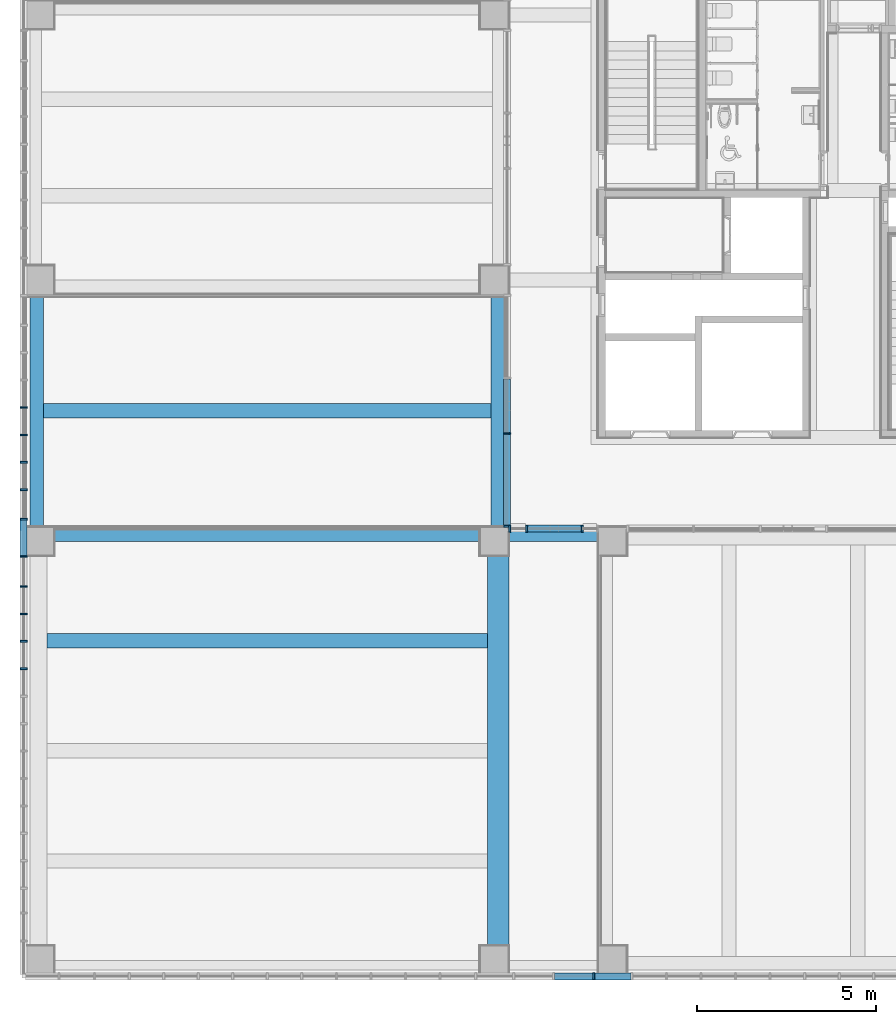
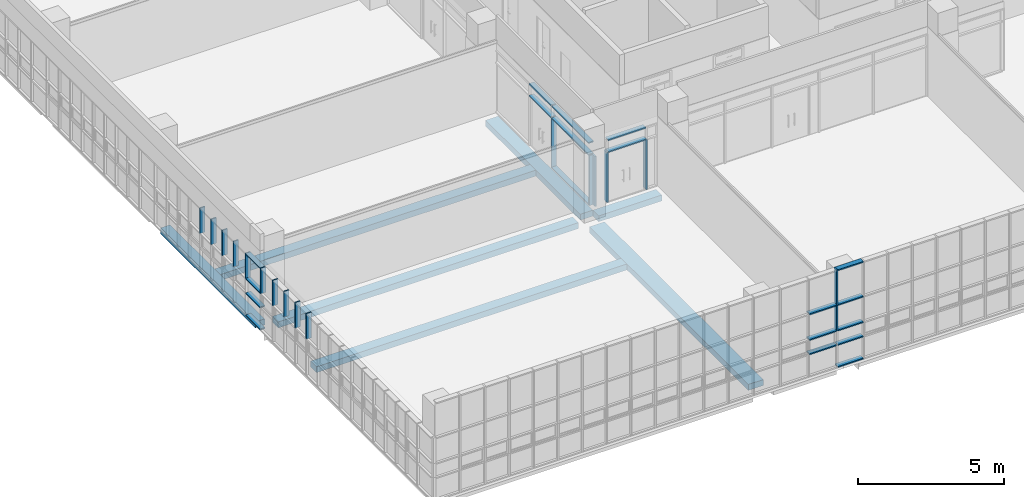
# One storey, part 3 of 76: 36 members, 7 beams, 4 elements without a shape of their own.
"""IFC2X3 building model written with IfcOpenShell, lengths in millimetres."""

from ifc_helpers import new_model, entity, si_unit, converted_unit, derived_unit, direction, frame, frame_2d, origin, origin_2d_with_axis, place, context, subcontext, project, spatial, rectangle, extrude, source, transform, mapped, material, type_object, type_shapes, element, aggregate, save


model = new_model("IFC2X3")

# Units and contexts
model_context = context("Model", 3, precision=0.01, world=origin(), true_north=direction((6.123031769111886e-17, 1.0)))
body_context = subcontext(model_context, "Body", "Model", "MODEL_VIEW")
ifc_project = project(units=[si_unit("LENGTHUNIT", "METRE", prefix="MILLI"), si_unit("AREAUNIT", "SQUARE_METRE"), si_unit("VOLUMEUNIT", "CUBIC_METRE"), converted_unit("PLANEANGLEUNIT", "DEGREE", entity("IfcRatioMeasure", 0.017453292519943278), si_unit("PLANEANGLEUNIT", "RADIAN"), dimensions=[0, 0, 0, 0, 0, 0, 0]), si_unit("MASSUNIT", "GRAM", prefix="KILO"), derived_unit("MASSDENSITYUNIT", [(si_unit("MASSUNIT", "GRAM", prefix="KILO"), 1), (si_unit("LENGTHUNIT", "METRE"), -3)]), derived_unit("MOMENTOFINERTIAUNIT", [(si_unit("LENGTHUNIT", "METRE"), 4)]), si_unit("TIMEUNIT", "SECOND"), si_unit("FREQUENCYUNIT", "HERTZ"), si_unit("THERMODYNAMICTEMPERATUREUNIT", "DEGREE_CELSIUS"), derived_unit("THERMALTRANSMITTANCEUNIT", [(si_unit("MASSUNIT", "GRAM", prefix="KILO"), 1), (si_unit("THERMODYNAMICTEMPERATUREUNIT", "KELVIN"), -1), (si_unit("TIMEUNIT", "SECOND"), -3)]), derived_unit("VOLUMETRICFLOWRATEUNIT", [(si_unit("LENGTHUNIT", "METRE"), 3), (si_unit("TIMEUNIT", "SECOND"), -1)]), derived_unit("MASSFLOWRATEUNIT", [(si_unit("MASSUNIT", "GRAM", prefix="KILO"), 1), (si_unit("TIMEUNIT", "SECOND"), -1)]), derived_unit("ROTATIONALFREQUENCYUNIT", [(si_unit("TIMEUNIT", "SECOND"), -1)]), si_unit("ELECTRICCURRENTUNIT", "AMPERE"), si_unit("ELECTRICVOLTAGEUNIT", "VOLT"), si_unit("POWERUNIT", "WATT"), si_unit("FORCEUNIT", "NEWTON", prefix="KILO"), si_unit("ILLUMINANCEUNIT", "LUX"), si_unit("LUMINOUSFLUXUNIT", "LUMEN"), si_unit("LUMINOUSINTENSITYUNIT", "CANDELA"), derived_unit("USERDEFINED", [(si_unit("MASSUNIT", "GRAM", prefix="KILO"), -1), (si_unit("LENGTHUNIT", "METRE"), -2), (si_unit("TIMEUNIT", "SECOND"), 3), (si_unit("LUMINOUSFLUXUNIT", "LUMEN"), 1)]), derived_unit("SOUNDPOWERUNIT", [(si_unit("MASSUNIT", "GRAM", prefix="KILO"), 1), (si_unit("LENGTHUNIT", "METRE"), 2), (si_unit("TIMEUNIT", "SECOND"), -3)]), derived_unit("SOUNDPRESSUREUNIT", [(si_unit("MASSUNIT", "GRAM", prefix="KILO"), 1), (si_unit("LENGTHUNIT", "METRE"), -1), (si_unit("TIMEUNIT", "SECOND"), -2)]), derived_unit("LINEARVELOCITYUNIT", [(si_unit("LENGTHUNIT", "METRE"), 1), (si_unit("TIMEUNIT", "SECOND"), -1)]), si_unit("PRESSUREUNIT", "PASCAL"), derived_unit("USERDEFINED", [(si_unit("LENGTHUNIT", "METRE"), -2), (si_unit("MASSUNIT", "GRAM", prefix="KILO"), 1), (si_unit("TIMEUNIT", "SECOND"), -2)]), derived_unit("LINEARFORCEUNIT", [(si_unit("MASSUNIT", "GRAM", prefix="KILO"), 1), (si_unit("LENGTHUNIT", "METRE"), 1), (si_unit("TIMEUNIT", "SECOND"), -2), (si_unit("LENGTHUNIT", "METRE"), -1)]), derived_unit("PLANARFORCEUNIT", [(si_unit("MASSUNIT", "GRAM", prefix="KILO"), 1), (si_unit("LENGTHUNIT", "METRE"), 1), (si_unit("TIMEUNIT", "SECOND"), -2), (si_unit("LENGTHUNIT", "METRE"), -2)])], contexts=[model_context])

# Site, building, storey
site_placement = place(None, frame((-14167.972527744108, -657.2125860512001, 0.0)))
site = spatial("IfcSite", under=ifc_project, at=site_placement, Name="Default", CompositionType="ELEMENT")
building_placement = place(site_placement, origin())
building = spatial("IfcBuilding", under=site, at=building_placement, Name="Sample Building", CompositionType="ELEMENT")
storey_placement = place(building_placement, frame((0.0, 0.0, 9300.0)))
storey = spatial("IfcBuildingStorey", under=building, at=storey_placement, Name="지상 3층", CompositionType="ELEMENT", Elevation=9300.000000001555)

# Curtain wall, members
curtain_wall_type = type_object("IfcCurtainWallType", Name="커튼월:CW112-스테인리스 스틸 커튼월", PredefinedType="NOTDEFINED")
curtain_wall_1_placement = place(storey_placement, frame((0.0, 0.0, -9300.0)))
curtain_wall_1 = element("IfcCurtainWall", 1, at=curtain_wall_1_placement, inside=storey, type_object=curtain_wall_type, Name="커튼월:CW112-스테인리스 스틸 커튼월", ObjectType="커튼월:CW112-스테인리스 스틸 커튼월")
ifc_material_1 = material(Name="<Unnamed>")
member_type_1 = type_object("IfcMemberType", Name="직사각형 멀리언:CW200-직사각형 멀리언 50x200mm", PredefinedType="MULLION", material=ifc_material_1)
shared_shape_1 = source(origin(), body_context, "Body", "SweptSolid", [
    extrude(rectangle(XDim=200.0, YDim=50.0, at=origin_2d_with_axis()), frame((0.0, 0.0, -2100.0), z_axis=(0.0, 0.0, 1.0), x_axis=(0.0, -1.0, 0.0)), (0.0, 0.0, 1.0), 2100.0),
])
type_shapes(member_type_1, [shared_shape_1])
member_1_placement = place(curtain_wall_1_placement, frame((27522.95510516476, 15667.17762439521, 9380.0), z_axis=(0.0, 0.0, -1.0), x_axis=(0.0, -1.0, 0.0)))
member_1 = element("IfcMember", 2, at=member_1_placement, type_object=member_type_1, material=ifc_material_1, Name="직사각형 멀리언:CW200-직사각형 멀리언 50x200mm", ObjectType="직사각형 멀리언:CW200-직사각형 멀리언 50x200mm", context=body_context, shape_type="MappedRepresentation", body=[
    mapped(shared_shape_1, transform((0.0, 0.0, 0.0), scale=1.0)),
])
member_type_2 = type_object("IfcMemberType", Name="직사각형 멀리언:CW200-직사각형 멀리언 50x200mm", PredefinedType="MULLION", material=ifc_material_1)
shared_shape_2 = source(origin(), body_context, "Body", "SweptSolid", [
    extrude(rectangle(XDim=200.0, YDim=50.0, at=origin_2d_with_axis()), frame((-25.0, 0.0, -2100.0), z_axis=(0.0, 0.0, 1.0), x_axis=(0.0, -1.0, 0.0)), (0.0, 0.0, 1.0), 2100.0),
])
type_shapes(member_type_2, [shared_shape_2])
member_2_placement = place(curtain_wall_1_placement, frame((27522.955105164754, 13057.177624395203, 9380.0), z_axis=(0.0, 0.0, -1.0), x_axis=(0.0, -1.0, 0.0)))
member_2 = element("IfcMember", 3, at=member_2_placement, type_object=member_type_2, material=ifc_material_1, Name="직사각형 멀리언:CW200-직사각형 멀리언 50x200mm", ObjectType="직사각형 멀리언:CW200-직사각형 멀리언 50x200mm", context=body_context, shape_type="MappedRepresentation", body=[
    mapped(shared_shape_2, transform((0.0, 0.0, 0.0), scale=1.0)),
])
member_type_3 = type_object("IfcMemberType", Name="직사각형 멀리언:CW200-직사각형 멀리언 50x200mm", PredefinedType="MULLION", material=ifc_material_1)
shared_shape_3 = source(origin(), body_context, "Body", "SweptSolid", [
    extrude(rectangle(XDim=200.0, YDim=50.0, at=origin_2d_with_axis()), frame((-25.0, 0.0, -1500.0), z_axis=(0.0, 0.0, 1.0), x_axis=(0.0, -1.0, 0.0)), (0.0, 0.0, 1.0), 1500.0000000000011),
])
type_shapes(member_type_3, [shared_shape_3])
member_3_placement = place(curtain_wall_1_placement, frame((27522.95510516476, 15692.177624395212, 12000.0), z_axis=(0.0, -1.0, 0.0), x_axis=(0.0, 0.0, 1.0)))
member_3 = element("IfcMember", 4, at=member_3_placement, type_object=member_type_3, material=ifc_material_1, Name="직사각형 멀리언:CW200-직사각형 멀리언 50x200mm", ObjectType="직사각형 멀리언:CW200-직사각형 멀리언 50x200mm", context=body_context, shape_type="MappedRepresentation", body=[
    mapped(shared_shape_3, transform((0.0, 0.0, 0.0), scale=1.0)),
])
member_type_4 = type_object("IfcMemberType", Name="직사각형 멀리언:CW200-직사각형 멀리언 50x200mm", PredefinedType="MULLION", material=ifc_material_1)
shared_shape_4 = source(origin(), body_context, "Body", "SweptSolid", [
    extrude(rectangle(XDim=200.0, YDim=50.0, at=origin_2d_with_axis()), frame((0.0, 0.0, -1500.0), z_axis=(0.0, 0.0, 1.0), x_axis=(0.0, -1.0, 0.0)), (0.0, 0.0, 1.0), 1500.0000000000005),
])
type_shapes(member_type_4, [shared_shape_4])
member_4_placement = place(curtain_wall_1_placement, frame((27522.95510516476, 15692.177624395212, 11480.0), z_axis=(0.0, -1.0, 0.0), x_axis=(0.0, 0.0, 1.0)))
member_4 = element("IfcMember", 5, at=member_4_placement, type_object=member_type_4, material=ifc_material_1, Name="직사각형 멀리언:CW200-직사각형 멀리언 50x200mm", ObjectType="직사각형 멀리언:CW200-직사각형 멀리언 50x200mm", context=body_context, shape_type="MappedRepresentation", body=[
    mapped(shared_shape_4, transform((0.0, 0.0, 0.0), scale=1.0)),
])

curtain_wall_2_placement = place(storey_placement, frame((0.0, 0.0, -9300.0)))
curtain_wall_2 = element("IfcCurtainWall", 6, at=curtain_wall_2_placement, inside=storey, type_object=curtain_wall_type, Name="커튼월:CW112-스테인리스 스틸 커튼월", ObjectType="커튼월:CW112-스테인리스 스틸 커튼월")
member_type_5 = type_object("IfcMemberType", Name="직사각형 멀리언:CW200-직사각형 멀리언 50x200mm", PredefinedType="MULLION", material=ifc_material_1)
shared_shape_5 = source(origin(), body_context, "Body", "SweptSolid", [
    extrude(rectangle(XDim=200.0, YDim=50.0, at=origin_2d_with_axis()), frame((0.0, 0.0, -990.0), z_axis=(0.0, 0.0, 1.0), x_axis=(0.0, -1.0, 0.0)), (0.0, 0.0, 1.0), 990.0000000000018),
])
type_shapes(member_type_5, [shared_shape_5])
member_5_placement = place(curtain_wall_2_placement, frame((14018.587904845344, 12256.817707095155, 10330.0), z_axis=(0.0, -1.0, 0.0), x_axis=(0.0, 0.0, 1.0)))
member_5 = element("IfcMember", 7, at=member_5_placement, type_object=member_type_5, material=ifc_material_1, Name="직사각형 멀리언:CW200-직사각형 멀리언 50x200mm", ObjectType="직사각형 멀리언:CW200-직사각형 멀리언 50x200mm", context=body_context, shape_type="MappedRepresentation", body=[
    mapped(shared_shape_5, transform((0.0, 0.0, 0.0), scale=1.0)),
])
member_6_placement = place(curtain_wall_2_placement, frame((14018.587904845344, 12256.817707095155, 10930.0), z_axis=(0.0, -1.0, 0.0), x_axis=(0.0, 0.0, 1.0)))
member_6 = element("IfcMember", 8, at=member_6_placement, type_object=member_type_5, material=ifc_material_1, Name="직사각형 멀리언:CW200-직사각형 멀리언 50x200mm", ObjectType="직사각형 멀리언:CW200-직사각형 멀리언 50x200mm", context=body_context, shape_type="MappedRepresentation", body=[
    mapped(shared_shape_5, transform((0.0, 0.0, 0.0), scale=1.0)),
])
member_type_6 = type_object("IfcMemberType", Name="직사각형 멀리언:CW200-직사각형 멀리언 50x200mm", PredefinedType="MULLION", material=ifc_material_1)
shared_shape_6 = source(origin(), body_context, "Body", "SweptSolid", [
    extrude(rectangle(XDim=200.0, YDim=50.0, at=origin_2d_with_axis()), frame((-25.0, 0.0, -990.0), z_axis=(0.0, 0.0, 1.0), x_axis=(0.0, -1.0, 0.0)), (0.0, 0.0, 1.0), 990.0000000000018),
])
type_shapes(member_type_6, [shared_shape_6])
member_7_placement = place(curtain_wall_2_placement, frame((14018.587904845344, 12256.817707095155, 12000.0), z_axis=(0.0, -1.0, 0.0), x_axis=(0.0, 0.0, 1.0)))
member_7 = element("IfcMember", 9, at=member_7_placement, type_object=member_type_6, material=ifc_material_1, Name="직사각형 멀리언:CW200-직사각형 멀리언 50x200mm", ObjectType="직사각형 멀리언:CW200-직사각형 멀리언 50x200mm", context=body_context, shape_type="MappedRepresentation", body=[
    mapped(shared_shape_6, transform((0.0, 0.0, 0.0), scale=1.0)),
])

# Member
member_type_7 = type_object("IfcMemberType", Name="직사각형 멀리언:CW200-직사각형 멀리언 50x200mm", PredefinedType="MULLION", material=ifc_material_1)
shared_shape_7 = source(origin(), body_context, "Body", "SweptSolid", [
    extrude(rectangle(XDim=200.0, YDim=50.0, at=origin_2d_with_axis()), frame((-25.0, 0.0, -2534.965316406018), z_axis=(0.0, 0.0, 1.0), x_axis=(0.0, -1.0, 0.0)), (0.0, 0.0, 1.0), 2534.965316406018),
])
type_shapes(member_type_7, [shared_shape_7])
member_8_placement = place(curtain_wall_1_placement, frame((27522.955105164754, 13107.1776243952, 12000.0), z_axis=(0.0, -1.0, 0.0), x_axis=(0.0, 0.0, 1.0)))
member_8 = element("IfcMember", 10, at=member_8_placement, type_object=member_type_7, material=ifc_material_1, Name="직사각형 멀리언:CW200-직사각형 멀리언 50x200mm", ObjectType="직사각형 멀리언:CW200-직사각형 멀리언 50x200mm", context=body_context, shape_type="MappedRepresentation", body=[
    mapped(shared_shape_7, transform((0.0, 0.0, 0.0), scale=1.0)),
])

member_type_8 = type_object("IfcMemberType", Name="직사각형 멀리언:CW200-직사각형 멀리언 50x200mm", PredefinedType="MULLION", material=ifc_material_1)
shared_shape_8 = source(origin(), body_context, "Body", "SweptSolid", [
    extrude(rectangle(XDim=200.0, YDim=50.0, at=origin_2d_with_axis()), frame((-25.0, 0.0, -2534.965316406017), z_axis=(0.0, 0.0, 1.0), x_axis=(0.0, -1.0, 0.0)), (0.0, 0.0, 1.0), 2534.965316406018),
])
type_shapes(member_type_8, [shared_shape_8])
member_9_placement = place(curtain_wall_1_placement, frame((27522.95510516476, 15642.17762439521, 9380.0), z_axis=(0.0, 1.0, 0.0), x_axis=(0.0, 0.0, -1.0)))
member_9 = element("IfcMember", 11, at=member_9_placement, type_object=member_type_8, material=ifc_material_1, Name="직사각형 멀리언:CW200-직사각형 멀리언 50x200mm", ObjectType="직사각형 멀리언:CW200-직사각형 멀리언 50x200mm", context=body_context, shape_type="MappedRepresentation", body=[
    mapped(shared_shape_8, transform((0.0, 0.0, 0.0), scale=1.0)),
])

member_type_9 = type_object("IfcMemberType", Name="직사각형 멀리언:CW200-직사각형 멀리언 50x200mm", PredefinedType="MULLION", material=ifc_material_1)
shared_shape_9 = source(origin(), body_context, "Body", "SweptSolid", [
    extrude(rectangle(XDim=200.0, YDim=50.0, at=origin_2d_with_axis()), frame((0.0, 0.0, -2534.9653164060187), z_axis=(0.0, 0.0, 1.0), x_axis=(0.0, -1.0, 0.0)), (0.0, 0.0, 1.0), 2534.9653164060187),
])
type_shapes(member_type_9, [shared_shape_9])
member_10_placement = place(curtain_wall_1_placement, frame((27522.955105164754, 13107.1776243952, 11480.0), z_axis=(0.0, -1.0, 0.0), x_axis=(0.0, 0.0, 1.0)))
member_10 = element("IfcMember", 12, at=member_10_placement, type_object=member_type_9, material=ifc_material_1, Name="직사각형 멀리언:CW200-직사각형 멀리언 50x200mm", ObjectType="직사각형 멀리언:CW200-직사각형 멀리언 50x200mm", context=body_context, shape_type="MappedRepresentation", body=[
    mapped(shared_shape_9, transform((0.0, 0.0, 0.0), scale=1.0)),
])

aggregate(curtain_wall_1, [member_8, member_2, member_3, member_9, member_1, member_4, member_10])

# Curtain wall, members
curtain_wall_3_placement = place(storey_placement, frame((0.0, 0.0, -9300.0)))
curtain_wall_3 = element("IfcCurtainWall", 13, at=curtain_wall_3_placement, inside=storey, type_object=curtain_wall_type, Name="커튼월:CW112-스테인리스 스틸 커튼월", ObjectType="커튼월:CW112-스테인리스 스틸 커튼월")
member_type_10 = type_object("IfcMemberType", Name="직사각형 멀리언:CW200-직사각형 멀리언 50x200mm", PredefinedType="MULLION", material=ifc_material_1)
shared_shape_10 = source(origin(), body_context, "Body", "SweptSolid", [
    extrude(rectangle(XDim=200.0, YDim=50.0, at=origin_2d_with_axis()), frame((0.0, 0.0, -1500.0), z_axis=(0.0, 0.0, 1.0), x_axis=(0.0, -1.0, 0.0)), (0.0, 0.0, 1.0), 1499.999999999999),
])
type_shapes(member_type_10, [shared_shape_10])
member_11_placement = place(curtain_wall_3_placement, frame((28091.1258144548, 13012.212307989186, 11480.0), z_axis=(-1.0, 0.0, 0.0), x_axis=(0.0, 0.0, 1.0)))
member_11 = element("IfcMember", 14, at=member_11_placement, type_object=member_type_10, material=ifc_material_1, Name="직사각형 멀리언:CW200-직사각형 멀리언 50x200mm", ObjectType="직사각형 멀리언:CW200-직사각형 멀리언 50x200mm", context=body_context, shape_type="MappedRepresentation", body=[
    mapped(shared_shape_10, transform((0.0, 0.0, 0.0), scale=1.0)),
])
member_type_11 = type_object("IfcMemberType", Name="직사각형 멀리언:CW200-직사각형 멀리언 50x200mm", PredefinedType="MULLION", material=ifc_material_1)
shared_shape_11 = source(origin(), body_context, "Body", "SweptSolid", [
    extrude(rectangle(XDim=200.0, YDim=50.0, at=origin_2d_with_axis()), frame((-25.0, 0.0, -1500.0), z_axis=(0.0, 0.0, 1.0), x_axis=(0.0, -1.0, 0.0)), (0.0, 0.0, 1.0), 1499.999999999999),
])
type_shapes(member_type_11, [shared_shape_11])
member_12_placement = place(curtain_wall_3_placement, frame((28091.1258144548, 13012.212307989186, 12000.0), z_axis=(-1.0, 0.0, 0.0), x_axis=(0.0, 0.0, 1.0)))
member_12 = element("IfcMember", 15, at=member_12_placement, type_object=member_type_11, material=ifc_material_1, Name="직사각형 멀리언:CW200-직사각형 멀리언 50x200mm", ObjectType="직사각형 멀리언:CW200-직사각형 멀리언 50x200mm", context=body_context, shape_type="MappedRepresentation", body=[
    mapped(shared_shape_11, transform((0.0, 0.0, 0.0), scale=1.0)),
])
member_type_12 = type_object("IfcMemberType", Name="직사각형 멀리언:CW200-직사각형 멀리언 50x200mm", PredefinedType="MULLION", material=ifc_material_1)
shared_shape_12 = source(origin(), body_context, "Body", "SweptSolid", [
    extrude(rectangle(XDim=200.0, YDim=50.0, at=origin_2d_with_axis()), frame((-25.0, 0.0, -2100.0), z_axis=(0.0, 0.0, 1.0), x_axis=(0.0, -1.0, 0.0)), (0.0, 0.0, 1.0), 2100.0),
])
type_shapes(member_type_12, [shared_shape_12])
member_13_placement = place(curtain_wall_3_placement, frame((27567.98031454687, 13012.212307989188, 9380.0), z_axis=(0.0, 0.0, -1.0), x_axis=(-1.0, 0.0, 0.0)))
member_13 = element("IfcMember", 16, at=member_13_placement, type_object=member_type_12, material=ifc_material_1, Name="직사각형 멀리언:CW200-직사각형 멀리언 50x200mm", ObjectType="직사각형 멀리언:CW200-직사각형 멀리언 50x200mm", context=body_context, shape_type="MappedRepresentation", body=[
    mapped(shared_shape_12, transform((0.0, 0.0, 0.0), scale=1.0)),
])
member_type_13 = type_object("IfcMemberType", Name="직사각형 멀리언:CW200-직사각형 멀리언 50x200mm", PredefinedType="MULLION", material=ifc_material_1)
shared_shape_13 = source(origin(), body_context, "Body", "SweptSolid", [
    extrude(rectangle(XDim=200.0, YDim=50.0, at=origin_2d_with_axis()), frame((0.0, 0.0, -2100.0), z_axis=(0.0, 0.0, 1.0), x_axis=(0.0, -1.0, 0.0)), (0.0, 0.0, 1.0), 2100.0),
])
type_shapes(member_type_13, [shared_shape_13])
member_14_placement = place(curtain_wall_3_placement, frame((29616.1258144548, 13012.212307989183, 9380.0), z_axis=(0.0, 0.0, -1.0), x_axis=(-1.0, 0.0, 0.0)))
member_14 = element("IfcMember", 17, at=member_14_placement, type_object=member_type_13, material=ifc_material_1, Name="직사각형 멀리언:CW200-직사각형 멀리언 50x200mm", ObjectType="직사각형 멀리언:CW200-직사각형 멀리언 50x200mm", context=body_context, shape_type="MappedRepresentation", body=[
    mapped(shared_shape_13, transform((0.0, 0.0, 0.0), scale=1.0)),
])
member_15_placement = place(curtain_wall_3_placement, frame((28066.1258144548, 13012.212307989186, 9380.0), z_axis=(0.0, 0.0, -1.0), x_axis=(-1.0, 0.0, 0.0)))
member_15 = element("IfcMember", 18, at=member_15_placement, type_object=member_type_13, material=ifc_material_1, Name="직사각형 멀리언:CW200-직사각형 멀리언 50x200mm", ObjectType="직사각형 멀리언:CW200-직사각형 멀리언 50x200mm", context=body_context, shape_type="MappedRepresentation", body=[
    mapped(shared_shape_13, transform((0.0, 0.0, 0.0), scale=1.0)),
])
aggregate(curtain_wall_3, [member_13, member_11, member_14, member_12, member_15])

# Member
member_type_14 = type_object("IfcMemberType", Name="직사각형 멀리언:CW200-직사각형 멀리언 50x200mm", PredefinedType="MULLION", material=ifc_material_1)
shared_shape_14 = source(origin(), body_context, "Body", "SweptSolid", [
    extrude(rectangle(XDim=200.0, YDim=50.0, at=origin_2d_with_axis()), frame((0.0, 0.0, -1070.0), z_axis=(0.0, 0.0, 1.0), x_axis=(0.0, -1.0, 0.0)), (0.0, 0.0, 1.0), 1070.000000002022),
])
type_shapes(member_type_14, [shared_shape_14])
member_16_placement = place(curtain_wall_2_placement, frame((14018.58790484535, 15629.81770709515, 10930.0), z_axis=(0.0, 0.0, -1.0), x_axis=(0.0, -1.0, 0.0)))
member_16 = element("IfcMember", 19, at=member_16_placement, type_object=member_type_14, material=ifc_material_1, Name="직사각형 멀리언:CW200-직사각형 멀리언 50x200mm", ObjectType="직사각형 멀리언:CW200-직사각형 멀리언 50x200mm", context=body_context, shape_type="MappedRepresentation", body=[
    mapped(shared_shape_14, transform((0.0, 0.0, 0.0), scale=1.0)),
])

member_17_placement = place(curtain_wall_2_placement, frame((14018.587904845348, 14863.817707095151, 10930.0), z_axis=(0.0, 0.0, -1.0), x_axis=(0.0, -1.0, 0.0)))
member_17 = element("IfcMember", 20, at=member_17_placement, type_object=member_type_14, material=ifc_material_1, Name="직사각형 멀리언:CW200-직사각형 멀리언 50x200mm", ObjectType="직사각형 멀리언:CW200-직사각형 멀리언 50x200mm", context=body_context, shape_type="MappedRepresentation", body=[
    mapped(shared_shape_14, transform((0.0, 0.0, 0.0), scale=1.0)),
])

member_18_placement = place(curtain_wall_2_placement, frame((14018.587904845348, 14097.817707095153, 10930.0), z_axis=(0.0, 0.0, -1.0), x_axis=(0.0, -1.0, 0.0)))
member_18 = element("IfcMember", 21, at=member_18_placement, type_object=member_type_14, material=ifc_material_1, Name="직사각형 멀리언:CW200-직사각형 멀리언 50x200mm", ObjectType="직사각형 멀리언:CW200-직사각형 멀리언 50x200mm", context=body_context, shape_type="MappedRepresentation", body=[
    mapped(shared_shape_14, transform((0.0, 0.0, 0.0), scale=1.0)),
])

member_19_placement = place(curtain_wall_2_placement, frame((14018.587904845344, 12231.817707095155, 10930.0), z_axis=(0.0, 0.0, -1.0), x_axis=(0.0, -1.0, 0.0)))
member_19 = element("IfcMember", 22, at=member_19_placement, type_object=member_type_14, material=ifc_material_1, Name="직사각형 멀리언:CW200-직사각형 멀리언 50x200mm", ObjectType="직사각형 멀리언:CW200-직사각형 멀리언 50x200mm", context=body_context, shape_type="MappedRepresentation", body=[
    mapped(shared_shape_14, transform((0.0, 0.0, 0.0), scale=1.0)),
])

member_20_placement = place(curtain_wall_2_placement, frame((14018.587904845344, 11395.81770709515, 10930.0), z_axis=(0.0, 0.0, -1.0), x_axis=(0.0, -1.0, 0.0)))
member_20 = element("IfcMember", 23, at=member_20_placement, type_object=member_type_14, material=ifc_material_1, Name="직사각형 멀리언:CW200-직사각형 멀리언 50x200mm", ObjectType="직사각형 멀리언:CW200-직사각형 멀리언 50x200mm", context=body_context, shape_type="MappedRepresentation", body=[
    mapped(shared_shape_14, transform((0.0, 0.0, 0.0), scale=1.0)),
])

member_21_placement = place(curtain_wall_2_placement, frame((14018.587904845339, 9097.817707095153, 10930.0), z_axis=(0.0, 0.0, -1.0), x_axis=(0.0, -1.0, 0.0)))
member_21 = element("IfcMember", 24, at=member_21_placement, type_object=member_type_14, material=ifc_material_1, Name="직사각형 멀리언:CW200-직사각형 멀리언 50x200mm", ObjectType="직사각형 멀리언:CW200-직사각형 멀리언 50x200mm", context=body_context, shape_type="MappedRepresentation", body=[
    mapped(shared_shape_14, transform((0.0, 0.0, 0.0), scale=1.0)),
])

member_22_placement = place(curtain_wall_2_placement, frame((14018.587904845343, 9863.817707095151, 10930.0), z_axis=(0.0, 0.0, -1.0), x_axis=(0.0, -1.0, 0.0)))
member_22 = element("IfcMember", 25, at=member_22_placement, type_object=member_type_14, material=ifc_material_1, Name="직사각형 멀리언:CW200-직사각형 멀리언 50x200mm", ObjectType="직사각형 멀리언:CW200-직사각형 멀리언 50x200mm", context=body_context, shape_type="MappedRepresentation", body=[
    mapped(shared_shape_14, transform((0.0, 0.0, 0.0), scale=1.0)),
])

member_23_placement = place(curtain_wall_2_placement, frame((14018.587904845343, 10629.817707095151, 10930.0), z_axis=(0.0, 0.0, -1.0), x_axis=(0.0, -1.0, 0.0)))
member_23 = element("IfcMember", 26, at=member_23_placement, type_object=member_type_14, material=ifc_material_1, Name="직사각형 멀리언:CW200-직사각형 멀리언 50x200mm", ObjectType="직사각형 멀리언:CW200-직사각형 멀리언 50x200mm", context=body_context, shape_type="MappedRepresentation", body=[
    mapped(shared_shape_14, transform((0.0, 0.0, 0.0), scale=1.0)),
])

member_24_placement = place(curtain_wall_2_placement, frame((14018.58790484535, 16395.81770709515, 10930.0), z_axis=(0.0, 0.0, -1.0), x_axis=(0.0, -1.0, 0.0)))
member_24 = element("IfcMember", 27, at=member_24_placement, type_object=member_type_14, material=ifc_material_1, Name="직사각형 멀리언:CW200-직사각형 멀리언 50x200mm", ObjectType="직사각형 멀리언:CW200-직사각형 멀리언 50x200mm", context=body_context, shape_type="MappedRepresentation", body=[
    mapped(shared_shape_14, transform((0.0, 0.0, 0.0), scale=1.0)),
])

member_25_placement = place(curtain_wall_2_placement, frame((14018.587904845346, 13271.817707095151, 10930.0), z_axis=(0.0, 0.0, -1.0), x_axis=(0.0, -1.0, 0.0)))
member_25 = element("IfcMember", 28, at=member_25_placement, type_object=member_type_14, material=ifc_material_1, Name="직사각형 멀리언:CW200-직사각형 멀리언 50x200mm", ObjectType="직사각형 멀리언:CW200-직사각형 멀리언 50x200mm", context=body_context, shape_type="MappedRepresentation", body=[
    mapped(shared_shape_14, transform((0.0, 0.0, 0.0), scale=1.0)),
])

member_type_15 = type_object("IfcMemberType", Name="직사각형 멀리언:CW200-직사각형 멀리언 50x200mm", PredefinedType="MULLION", material=ifc_material_1)
shared_shape_15 = source(origin(), body_context, "Body", "SweptSolid", [
    extrude(rectangle(XDim=200.0, YDim=50.0, at=origin_2d_with_axis()), frame((-25.0, 0.0, -990.0), z_axis=(0.0, 0.0, 1.0), x_axis=(0.0, -1.0, 0.0)), (0.0, 0.0, 1.0), 989.999999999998),
])
type_shapes(member_type_15, [shared_shape_15])
member_26_placement = place(curtain_wall_2_placement, frame((14018.587904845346, 13246.817707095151, 9380.0), z_axis=(0.0, 1.0, 0.0), x_axis=(0.0, 0.0, -1.0)))
member_26 = element("IfcMember", 29, at=member_26_placement, type_object=member_type_15, material=ifc_material_1, Name="직사각형 멀리언:CW200-직사각형 멀리언 50x200mm", ObjectType="직사각형 멀리언:CW200-직사각형 멀리언 50x200mm", context=body_context, shape_type="MappedRepresentation", body=[
    mapped(shared_shape_15, transform((0.0, 0.0, 0.0), scale=1.0)),
])

aggregate(curtain_wall_2, [member_16, member_17, member_7, member_18, member_19, member_20, member_21, member_22, member_23, member_24, member_26, member_5, member_6, member_25])

# Curtain wall, members
curtain_wall_4_placement = place(storey_placement, frame((0.0, 0.0, -9300.0)))
curtain_wall_4 = element("IfcCurtainWall", 30, at=curtain_wall_4_placement, inside=storey, type_object=curtain_wall_type, Name="커튼월:CW112-스테인리스 스틸 커튼월", ObjectType="커튼월:CW112-스테인리스 스틸 커튼월")
member_type_16 = type_object("IfcMemberType", Name="직사각형 멀리언:CW200-직사각형 멀리언 50x200mm", PredefinedType="MULLION", material=ifc_material_1)
shared_shape_16 = source(origin(), body_context, "Body", "SweptSolid", [
    extrude(rectangle(XDim=200.0, YDim=50.0, at=origin_2d_with_axis()), frame((0.0, 0.0, -1070.0), z_axis=(0.0, 0.0, 1.0), x_axis=(0.0, -1.0, 0.0)), (0.0, 0.0, 1.0), 1070.000000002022),
])
type_shapes(member_type_16, [shared_shape_16])
member_27_placement = place(curtain_wall_4_placement, frame((29945.156070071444, 507.2122951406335, 10930.0), z_axis=(0.0, 0.0, -1.0), x_axis=(1.0, 0.0, 0.0)))
member_27 = element("IfcMember", 31, at=member_27_placement, type_object=member_type_16, material=ifc_material_1, Name="직사각형 멀리언:CW200-직사각형 멀리언 50x200mm", ObjectType="직사각형 멀리언:CW200-직사각형 멀리언 50x200mm", context=body_context, shape_type="MappedRepresentation", body=[
    mapped(shared_shape_16, transform((0.0, 0.0, 0.0), scale=1.0)),
])
member_type_17 = type_object("IfcMemberType", Name="직사각형 멀리언:CW200-직사각형 멀리언 50x200mm", PredefinedType="MULLION", material=ifc_material_1)
shared_shape_17 = source(origin(), body_context, "Body", "SweptSolid", [
    extrude(rectangle(XDim=200.0, YDim=50.0, at=origin_2d_with_axis()), frame((0.0, 0.0, -1480.0), z_axis=(0.0, 0.0, 1.0), x_axis=(0.0, -1.0, 0.0)), (0.0, 0.0, 1.0), 1479.9999999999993),
])
type_shapes(member_type_17, [shared_shape_17])
member_28_placement = place(curtain_wall_4_placement, frame((29945.156070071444, 507.2122951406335, 12000.0), z_axis=(0.0, 0.0, -1.0), x_axis=(1.0, 0.0, 0.0)))
member_28 = element("IfcMember", 32, at=member_28_placement, type_object=member_type_17, material=ifc_material_1, Name="직사각형 멀리언:CW200-직사각형 멀리언 50x200mm", ObjectType="직사각형 멀리언:CW200-직사각형 멀리언 50x200mm", context=body_context, shape_type="MappedRepresentation", body=[
    mapped(shared_shape_17, transform((0.0, 0.0, 0.0), scale=1.0)),
])
member_type_18 = type_object("IfcMemberType", Name="직사각형 멀리언:CW200-직사각형 멀리언 50x200mm", PredefinedType="MULLION", material=ifc_material_1)
shared_shape_18 = source(origin(), body_context, "Body", "SweptSolid", [
    extrude(rectangle(XDim=200.0, YDim=50.0, at=origin_2d_with_axis()), frame((-25.0, 0.0, -1010.0), z_axis=(0.0, 0.0, 1.0), x_axis=(0.0, -1.0, 0.0)), (0.0, 0.0, 1.0), 1009.9999999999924),
])
type_shapes(member_type_18, [shared_shape_18])
member_29_placement = place(curtain_wall_4_placement, frame((29970.156070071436, 507.21229514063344, 9380.0), z_axis=(-1.0, 0.0, 0.0), x_axis=(0.0, 0.0, -1.0)))
member_29 = element("IfcMember", 33, at=member_29_placement, type_object=member_type_18, material=ifc_material_1, Name="직사각형 멀리언:CW200-직사각형 멀리언 50x200mm", ObjectType="직사각형 멀리언:CW200-직사각형 멀리언 50x200mm", context=body_context, shape_type="MappedRepresentation", body=[
    mapped(shared_shape_18, transform((0.0, 0.0, 0.0), scale=1.0)),
])
member_type_19 = type_object("IfcMemberType", Name="직사각형 멀리언:CW200-직사각형 멀리언 50x200mm", PredefinedType="MULLION", material=ifc_material_1)
shared_shape_19 = source(origin(), body_context, "Body", "SweptSolid", [
    extrude(rectangle(XDim=200.0, YDim=50.0, at=origin_2d_with_axis()), frame((0.0, 0.0, -1010.0), z_axis=(0.0, 0.0, 1.0), x_axis=(0.0, -1.0, 0.0)), (0.0, 0.0, 1.0), 1009.9999999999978),
])
type_shapes(member_type_19, [shared_shape_19])
member_30_placement = place(curtain_wall_4_placement, frame((30980.15607007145, 507.21229514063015, 10330.0), z_axis=(1.0, 0.0, 0.0), x_axis=(0.0, 0.0, 1.0)))
member_30 = element("IfcMember", 34, at=member_30_placement, type_object=member_type_19, material=ifc_material_1, Name="직사각형 멀리언:CW200-직사각형 멀리언 50x200mm", ObjectType="직사각형 멀리언:CW200-직사각형 멀리언 50x200mm", context=body_context, shape_type="MappedRepresentation", body=[
    mapped(shared_shape_19, transform((0.0, 0.0, 0.0), scale=1.0)),
])
member_31_placement = place(curtain_wall_4_placement, frame((30980.15607007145, 507.21229514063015, 10930.0), z_axis=(1.0, 0.0, 0.0), x_axis=(0.0, 0.0, 1.0)))
member_31 = element("IfcMember", 35, at=member_31_placement, type_object=member_type_19, material=ifc_material_1, Name="직사각형 멀리언:CW200-직사각형 멀리언 50x200mm", ObjectType="직사각형 멀리언:CW200-직사각형 멀리언 50x200mm", context=body_context, shape_type="MappedRepresentation", body=[
    mapped(shared_shape_19, transform((0.0, 0.0, 0.0), scale=1.0)),
])
member_32_placement = place(curtain_wall_4_placement, frame((30980.156070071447, 507.21229514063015, 12000.0), z_axis=(1.0, 0.0, 0.0), x_axis=(0.0, 0.0, 1.0)))
member_32 = element("IfcMember", 36, at=member_32_placement, type_object=member_type_19, material=ifc_material_1, Name="직사각형 멀리언:CW200-직사각형 멀리언 50x200mm", ObjectType="직사각형 멀리언:CW200-직사각형 멀리언 50x200mm", context=body_context, shape_type="MappedRepresentation", body=[
    mapped(shared_shape_19, transform((0.0, 0.0, 0.0), scale=1.0)),
])
member_type_20 = type_object("IfcMemberType", Name="직사각형 멀리언:CW200-직사각형 멀리언 50x200mm", PredefinedType="MULLION", material=ifc_material_1)
shared_shape_20 = source(origin(), body_context, "Body", "SweptSolid", [
    extrude(rectangle(XDim=200.0, YDim=50.0, at=origin_2d_with_axis()), frame((-25.0, 0.0, -1010.0), z_axis=(0.0, 0.0, 1.0), x_axis=(0.0, -1.0, 0.0)), (0.0, 0.0, 1.0), 1009.9999999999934),
])
type_shapes(member_type_20, [shared_shape_20])
member_33_placement = place(curtain_wall_4_placement, frame((30980.15607007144, 507.21229514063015, 13480.0), z_axis=(1.0, 0.0, 0.0), x_axis=(0.0, 0.0, 1.0)))
member_33 = element("IfcMember", 37, at=member_33_placement, type_object=member_type_20, material=ifc_material_1, Name="직사각형 멀리언:CW200-직사각형 멀리언 50x200mm", ObjectType="직사각형 멀리언:CW200-직사각형 멀리언 50x200mm", context=body_context, shape_type="MappedRepresentation", body=[
    mapped(shared_shape_20, transform((0.0, 0.0, 0.0), scale=1.0)),
])
member_type_21 = type_object("IfcMemberType", Name="직사각형 멀리언:CW200-직사각형 멀리언 50x200mm", PredefinedType="MULLION", material=ifc_material_1)
shared_shape_21 = source(origin(), body_context, "Body", "SweptSolid", [
    extrude(rectangle(XDim=200.0, YDim=50.0, at=origin_2d_with_axis()), frame((0.0, 0.0, -1070.0), z_axis=(0.0, 0.0, 1.0), x_axis=(0.0, -1.0, 0.0)), (0.0, 0.0, 1.0), 1070.000000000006),
])
type_shapes(member_type_21, [shared_shape_21])
member_34_placement = place(curtain_wall_4_placement, frame((29920.15607007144, 507.21229514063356, 10330.0), z_axis=(1.0, 0.0, 0.0), x_axis=(0.0, 0.0, 1.0)))
member_34 = element("IfcMember", 38, at=member_34_placement, type_object=member_type_21, material=ifc_material_1, Name="직사각형 멀리언:CW200-직사각형 멀리언 50x200mm", ObjectType="직사각형 멀리언:CW200-직사각형 멀리언 50x200mm", context=body_context, shape_type="MappedRepresentation", body=[
    mapped(shared_shape_21, transform((0.0, 0.0, 0.0), scale=1.0)),
])
member_35_placement = place(curtain_wall_4_placement, frame((29920.156070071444, 507.21229514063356, 10930.0), z_axis=(1.0, 0.0, 0.0), x_axis=(0.0, 0.0, 1.0)))
member_35 = element("IfcMember", 39, at=member_35_placement, type_object=member_type_21, material=ifc_material_1, Name="직사각형 멀리언:CW200-직사각형 멀리언 50x200mm", ObjectType="직사각형 멀리언:CW200-직사각형 멀리언 50x200mm", context=body_context, shape_type="MappedRepresentation", body=[
    mapped(shared_shape_21, transform((0.0, 0.0, 0.0), scale=1.0)),
])
member_36_placement = place(curtain_wall_4_placement, frame((29920.156070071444, 507.21229514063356, 12000.0), z_axis=(1.0, 0.0, 0.0), x_axis=(0.0, 0.0, 1.0)))
member_36 = element("IfcMember", 40, at=member_36_placement, type_object=member_type_21, material=ifc_material_1, Name="직사각형 멀리언:CW200-직사각형 멀리언 50x200mm", ObjectType="직사각형 멀리언:CW200-직사각형 멀리언 50x200mm", context=body_context, shape_type="MappedRepresentation", body=[
    mapped(shared_shape_21, transform((0.0, 0.0, 0.0), scale=1.0)),
])
aggregate(curtain_wall_4, [member_33, member_29, member_34, member_30, member_35, member_31, member_36, member_32, member_27, member_28])

# Beams
ifc_material_2 = material(Name="KBIMS-콘크리트")
beam_type_1 = type_object("IfcBeamType", Name="BM111-철근콘크리트구조 보:BM110-철근 콘크리트구조 보_400 x 400_2-10G7", PredefinedType="NOTDEFINED")
beam_1_placement = place(storey_placement, frame((27317.963914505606, 12857.212478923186, 0.0), z_axis=(0.0, 0.0, 1.0), x_axis=(-1.0, 0.0, 0.0)))
element("IfcBeam", 41, at=beam_1_placement, inside=storey, type_object=beam_type_1, material=ifc_material_2, Name="BM111-철근콘크리트구조 보:BM110-철근 콘크리트구조 보_400 x 400_2-10G7", ObjectType="BM111-철근콘크리트구조 보:BM110-철근 콘크리트구조 보_400 x 400_2-10G7", context=body_context, shape_type="SweptSolid", body=[
    extrude(rectangle(XDim=250.00000000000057, YDim=400.0000000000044, at=frame_2d((5.400124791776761e-13, 0.0), x_axis=(1.0, 0.0))), frame((550.0087727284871, 0.0, -275.0), z_axis=(1.0, 0.0, 0.0), x_axis=(0.0, 0.0, -1.0)), (0.0, 0.0, 1.0), 11900.00003661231),
])
beam_type_2 = type_object("IfcBeamType", Name="BM111-철근콘크리트구조 보:BM110-철근 콘크리트구조 보_400 x 400_2-10G8", PredefinedType="NOTDEFINED")
beam_2_placement = place(storey_placement, frame((27317.963914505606, 12857.212604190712, 0.0)))
element("IfcBeam", 42, at=beam_2_placement, inside=storey, type_object=beam_type_2, material=ifc_material_2, Name="BM111-철근콘크리트구조 보:BM110-철근 콘크리트구조 보_400 x 400_2-10G8", ObjectType="BM111-철근콘크리트구조 보:BM110-철근 콘크리트구조 보_400 x 400_2-10G8", context=body_context, shape_type="SweptSolid", body=[
    extrude(rectangle(XDim=250.00000000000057, YDim=400.0000000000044, at=frame_2d((5.400124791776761e-13, 0.0), x_axis=(1.0, 0.0))), frame((249.991227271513, 0.0, -275.0), z_axis=(1.0, 0.0, 0.0), x_axis=(0.0, 0.0, -1.0)), (0.0, 0.0, 1.0), 2499.9999725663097),
])
beam_type_3 = type_object("IfcBeamType", Name="BM111-철근콘크리트구조 보:BM110-철근 콘크리트구조 보_400 x 400_2-10B3", PredefinedType="NOTDEFINED")
beam_3_placement = place(storey_placement, frame((14317.955221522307, 16307.247783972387, 0.0)))
element("IfcBeam", 43, at=beam_3_placement, inside=storey, type_object=beam_type_3, material=ifc_material_2, Name="BM111-철근콘크리트구조 보:BM110-철근 콘크리트구조 보_400 x 400_2-10B3", ObjectType="BM111-철근콘크리트구조 보:BM110-철근 콘크리트구조 보_400 x 400_2-10B3", context=body_context, shape_type="SweptSolid", body=[
    extrude(rectangle(XDim=250.00000000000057, YDim=400.0000000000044, at=frame_2d((5.400124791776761e-13, 0.0), x_axis=(1.0, 0.0))), frame((250.0, 0.0, -275.0), z_axis=(1.0, 0.0, 0.0), x_axis=(0.0, 0.0, -1.0)), (0.0, 0.0, 1.0), 12500.008692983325),
])
beam_4_placement = place(storey_placement, frame((27267.955221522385, 9882.212478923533, 0.0), z_axis=(0.0, 0.0, 1.0), x_axis=(-1.0, 0.0, 0.0)))
element("IfcBeam", 44, at=beam_4_placement, inside=storey, type_object=beam_type_3, material=ifc_material_2, Name="BM111-철근콘크리트구조 보:BM110-철근 콘크리트구조 보_400 x 400_2-10B3", ObjectType="BM111-철근콘크리트구조 보:BM110-철근 콘크리트구조 보_400 x 400_2-10B3", context=body_context, shape_type="SweptSolid", body=[
    extrude(rectangle(XDim=250.00000000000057, YDim=400.0000000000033, at=frame_2d((5.400124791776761e-13, -5.400124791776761e-13), x_axis=(1.0, 0.0))), frame((300.0, 0.0, -275.0), z_axis=(1.0, 0.0, 0.0), x_axis=(0.0, 0.0, -1.0)), (0.0, 0.0, 1.0), 12300.00000000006),
])
beam_type_4 = type_object("IfcBeamType", Name="BM111-철근콘크리트구조 보:BM110-철근 콘크리트구조 보_600 x 400_2-10G12", PredefinedType="NOTDEFINED")
beam_5_placement = place(storey_placement, frame((27267.955221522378, 12607.212617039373, 0.0), z_axis=(0.0, 0.0, 1.0), x_axis=(0.0, -1.0, 0.0)))
element("IfcBeam", 45, at=beam_5_placement, inside=storey, type_object=beam_type_4, material=ifc_material_2, Name="BM111-철근콘크리트구조 보:BM110-철근 콘크리트구조 보_600 x 400_2-10G12", ObjectType="BM111-철근콘크리트구조 보:BM110-철근 콘크리트구조 보_600 x 400_2-10G12", context=body_context, shape_type="SweptSolid", body=[
    extrude(rectangle(XDim=250.00000000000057, YDim=600.0000000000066, at=frame_2d((5.400124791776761e-13, -2.1884716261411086e-12), x_axis=(1.0, 0.0))), frame((350.0, 0.0, -275.0), z_axis=(1.0, 0.0, 0.0), x_axis=(0.0, 0.0, -1.0)), (0.0, 0.0, 1.0), 10900.000421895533),
])
beam_type_5 = type_object("IfcBeamType", Name="BM111-철근콘크리트구조 보:BM110-철근 콘크리트구조 보_500 x 400_2-10G11", PredefinedType="NOTDEFINED")
beam_6_placement = place(storey_placement, frame((14317.955221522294, 12857.212478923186, 0.0), z_axis=(0.0, 0.0, 1.0), x_axis=(0.0, 1.0, 0.0)))
element("IfcBeam", 46, at=beam_6_placement, inside=storey, type_object=beam_type_5, material=ifc_material_2, Name="BM111-철근콘크리트구조 보:BM110-철근 콘크리트구조 보_500 x 400_2-10G11", ObjectType="BM111-철근콘크리트구조 보:BM110-철근 콘크리트구조 보_500 x 400_2-10G11", context=body_context, shape_type="SweptSolid", body=[
    extrude(rectangle(XDim=250.00000000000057, YDim=374.98265064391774, at=frame_2d((5.400124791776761e-13, -1.0828671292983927e-11), x_axis=(1.0, 0.0))), frame((200.00013811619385, -62.50867467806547, -275.0), z_axis=(1.0, 0.0, 0.0), x_axis=(0.0, 0.0, -1.0)), (0.0, 0.0, 1.0), 6500.000000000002),
])
beam_7_placement = place(storey_placement, frame((27317.963914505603, 12857.212478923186, 0.0), z_axis=(0.0, 0.0, 1.0), x_axis=(0.0, 1.0, 0.0)))
element("IfcBeam", 47, at=beam_7_placement, inside=storey, type_object=beam_type_5, material=ifc_material_2, Name="BM111-철근콘크리트구조 보:BM110-철근 콘크리트구조 보_500 x 400_2-10G11", ObjectType="BM111-철근콘크리트구조 보:BM110-철근 콘크리트구조 보_500 x 400_2-10G11", context=body_context, shape_type="SweptSolid", body=[
    extrude(rectangle(XDim=250.00000000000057, YDim=500.0000000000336, at=frame_2d((5.400124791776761e-13, -1.9483081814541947e-11), x_axis=(1.0, 0.0))), frame((200.00013811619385, 0.0, -275.0), z_axis=(1.0, 0.0, 0.0), x_axis=(0.0, 0.0, -1.0)), (0.0, 0.0, 1.0), 6499.999999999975),
])

save(model, "model.ifc")
